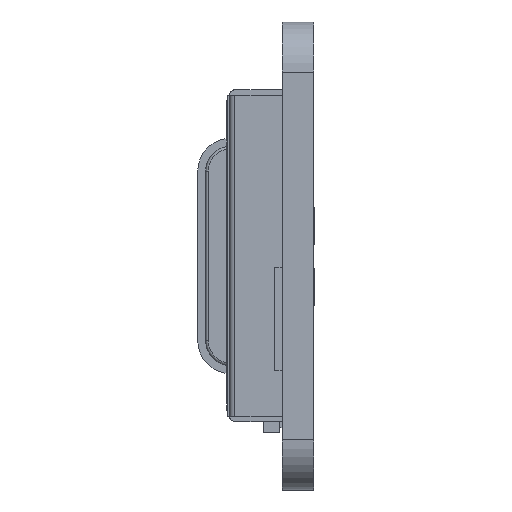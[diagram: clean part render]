
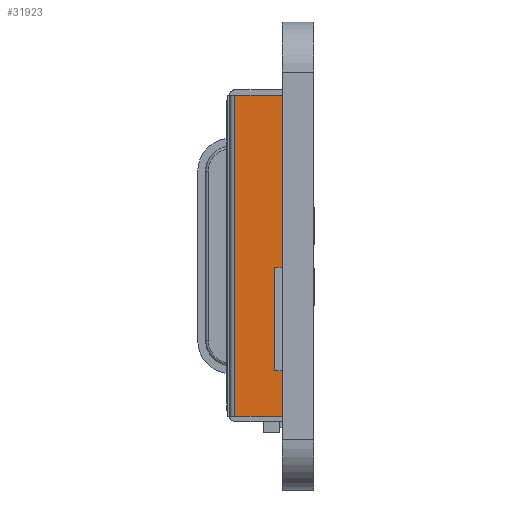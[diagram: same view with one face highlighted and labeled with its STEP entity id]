
A CAD part, left-side view. The second image highlights one B-rep face of the part: STEP entity #31923.
In plain terms, the highlighted planar face has unit normal (-1, 0, 0).
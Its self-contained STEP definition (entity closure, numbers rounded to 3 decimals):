
#2677=FACE_OUTER_BOUND('',#4464,.T.);
#4464=EDGE_LOOP('',(#22694,#22695,#22696,#22697));
#6726=LINE('',#45702,#10193);
#6728=LINE('',#45707,#10195);
#6729=LINE('',#45708,#10196);
#6730=LINE('',#45709,#10197);
#10193=VECTOR('',#37842,10.);
#10195=VECTOR('',#37846,10.);
#10196=VECTOR('',#37847,10.);
#10197=VECTOR('',#37848,10.);
#13522=VERTEX_POINT('',#45699);
#13523=VERTEX_POINT('',#45701);
#13524=VERTEX_POINT('',#45705);
#13525=VERTEX_POINT('',#45706);
#16999=EDGE_CURVE('',#13522,#13523,#6726,.T.);
#17001=EDGE_CURVE('',#13524,#13525,#6728,.T.);
#17002=EDGE_CURVE('',#13524,#13523,#6729,.F.);
#17003=EDGE_CURVE('',#13522,#13525,#6730,.F.);
#22694=ORIENTED_EDGE('',*,*,#17001,.F.);
#22695=ORIENTED_EDGE('',*,*,#17002,.T.);
#22696=ORIENTED_EDGE('',*,*,#16999,.F.);
#22697=ORIENTED_EDGE('',*,*,#17003,.T.);
#30448=PLANE('',#34330);
#31923=ADVANCED_FACE('',(#2677),#30448,.T.);
#34330=AXIS2_PLACEMENT_3D('',#45704,#37844,#37845);
#37842=DIRECTION('',(0.,0.,-1.));
#37844=DIRECTION('center_axis',(-1.,0.,0.));
#37845=DIRECTION('ref_axis',(0.,0.,1.));
#37846=DIRECTION('',(0.,0.,1.));
#37847=DIRECTION('',(0.,1.,0.));
#37848=DIRECTION('',(0.,-1.,0.));
#45699=CARTESIAN_POINT('',(-5.028,1.,-0.011));
#45701=CARTESIAN_POINT('',(-5.028,1.,-12.211));
#45702=CARTESIAN_POINT('',(-5.028,1.,-9.223));
#45704=CARTESIAN_POINT('Origin',(-5.028,1.,-12.334));
#45705=CARTESIAN_POINT('',(-5.028,2.8,-12.211));
#45706=CARTESIAN_POINT('',(-5.028,2.8,-0.011));
#45707=CARTESIAN_POINT('',(-5.028,2.8,-9.223));
#45708=CARTESIAN_POINT('',(-5.028,1.,-12.211));
#45709=CARTESIAN_POINT('',(-5.028,1.,-0.011));
